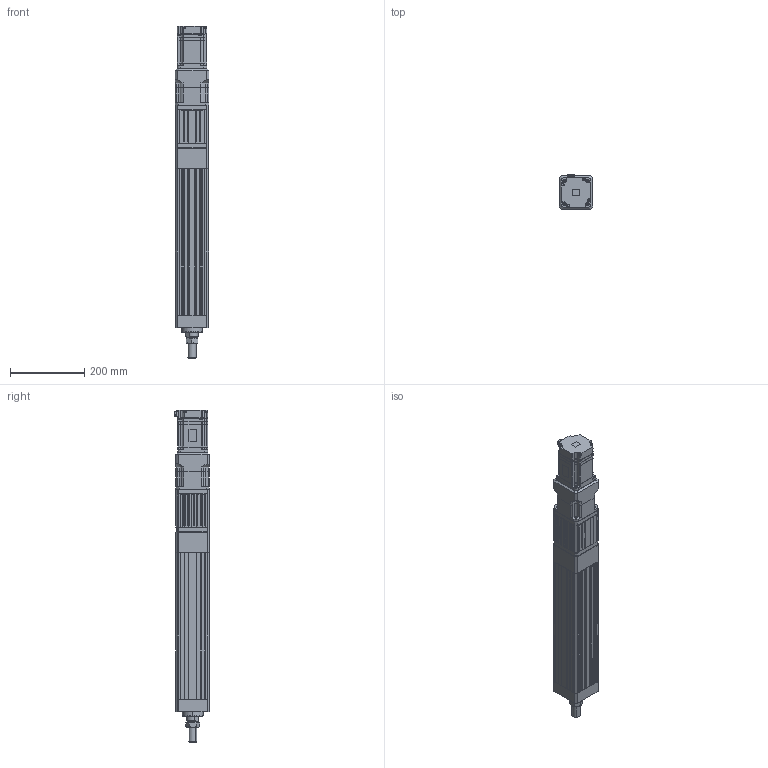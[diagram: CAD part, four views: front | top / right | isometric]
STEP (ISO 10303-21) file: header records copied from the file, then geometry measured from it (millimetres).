
FILE_DESCRIPTION (( 'STEP AP203' ), '1' );
FILE_NAME ('ANS090H-S250-05(10)(25)-W75G05-M.STEP', '2019-03-18T00:55:27', ( 'user' ), ( '' ), 'SwSTEP 2.0', 'SolidWorks 2013', '' );
FILE_SCHEMA (( 'CONFIG_CONTROL_DESIGN' ));
Length unit declared in the file: millimetre
Products named in the file (6): ANS090H S250 VER2; HEXNUT-M22X1.5P; ANS090 ROD ST250-M; SGMJV_08A_A21; AB090-005-S1-P2[YASKAWA SGMJV08A]; ANS090H-S250-05(10)(25)-W75G05-M
Assembly tree (5 placements, depth 2):
  ANS090H-S250-05(10)(25)-W75G05-M
    ANS090H S250 VER2
    HEXNUT-M22X1.5P
    ANS090 ROD ST250-M
    SGMJV_08A_A21
    AB090-005-S1-P2[YASKAWA SGMJV08A]
Bounding box: 90 x 93.8 x 894.1 mm (x, y, z)
Volume: 3320714 mm3; surface area: 621984.9 mm2
Topology: 4 solids, 11 shells, 1615 faces, 4344 edges, 2802 vertices
Faces by surface type: plane 986, cylinder 481, cone 136, bspline 12
Entity records: 51143 total; most frequent: CARTESIAN_POINT 9819, ORIENTED_EDGE 8552, DIRECTION 8387, EDGE_CURVE 4320, LINE 3095, VECTOR 3095, VERTEX_POINT 2802, AXIS2_PLACEMENT_3D 2646
